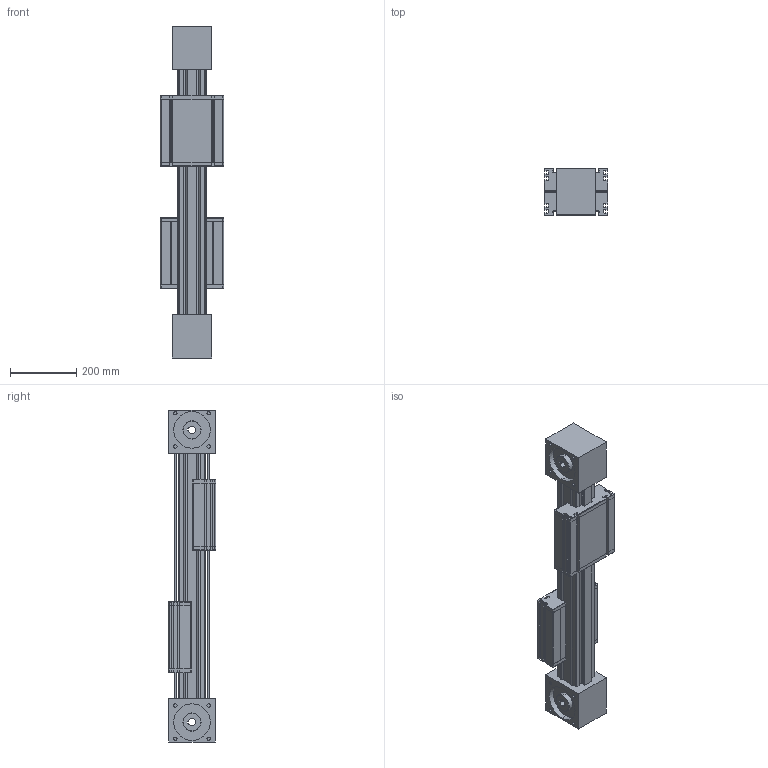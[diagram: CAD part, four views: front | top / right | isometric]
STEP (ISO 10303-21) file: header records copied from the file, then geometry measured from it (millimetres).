
FILE_DESCRIPTION (( 'STEP AP214' ), '1' );
FILE_NAME ('ELZG80S.STEP', '2022-07-21T09:38:24', ( '' ), ( '' ), 'SwSTEP 2.0', 'SolidWorks 2020', '' );
FILE_SCHEMA (( 'AUTOMOTIVE_DESIGN' ));
Length unit declared in the file: millimetre
Products named in the file (5): timing belt reverse unit^ELZG80S_coupling claw pos.2; timing belt reverse unit^ELZG80S_coupling claw pos.1; ELZG80S; carriage^ELZG80S_carriage version 0; profile^ELZG80S_4x guide rod
Assembly tree (5 placements, depth 2):
  ELZG80S
    profile^ELZG80S_4x guide rod
    carriage^ELZG80S_carriage version 0  x2
    timing belt reverse unit^ELZG80S_coupling claw pos.1
    timing belt reverse unit^ELZG80S_coupling claw pos.2
Bounding box: 190 x 142 x 1000 mm (x, y, z)
Volume: 11931089 mm3; surface area: 1257510.2 mm2
Topology: 15 solids, 15 shells, 820 faces, 2262 edges, 1496 vertices
Faces by surface type: plane 592, cylinder 208, torus 16, cone 4
Entity records: 18881 total; most frequent: CARTESIAN_POINT 2878, DIRECTION 2827, ORIENTED_EDGE 2822, EDGE_CURVE 1411, VECTOR 1061, LINE 1061, VERTEX_POINT 934, AXIS2_PLACEMENT_3D 883
